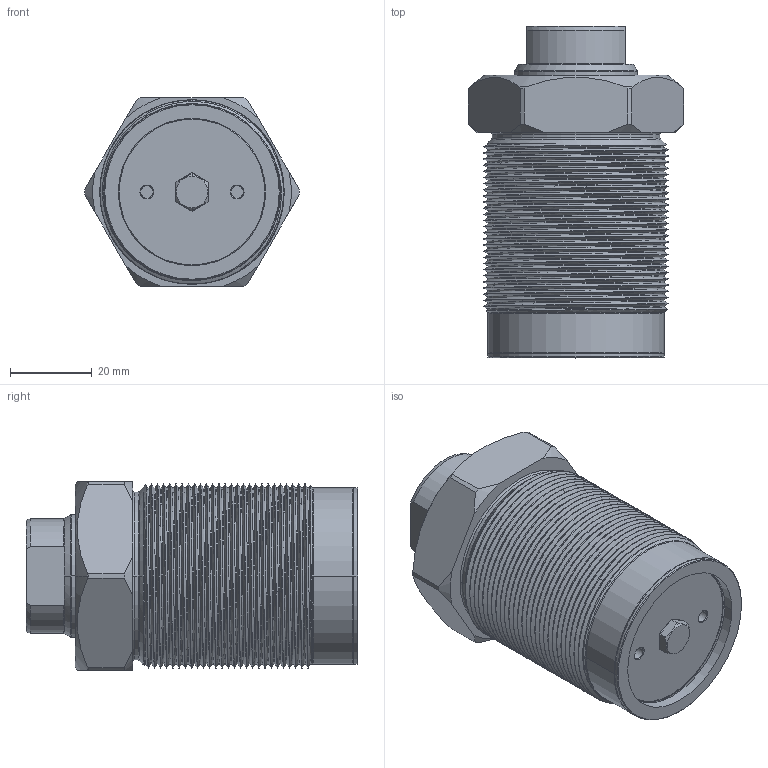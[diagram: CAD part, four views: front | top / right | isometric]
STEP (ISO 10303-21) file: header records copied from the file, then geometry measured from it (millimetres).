
FILE_DESCRIPTION((''),'2;1');
FILE_NAME('SIMP_PUSH_CYLINDER_45_ASM','2023-04-17T10:37:58',('Design 2'),(''),'CREO PARAMETRIC BY PTC INC, 2020053','CREO PARAMETRIC BY PTC INC, 2020053','');
FILE_SCHEMA(('CONFIG_CONTROL_DESIGN'));
Length unit declared in the file: millimetre
Products named in the file (6): THREADED_BODY__; ROD__; WASHER__; PISTON___ASM; COPPER_WASHER_45_; SIMP_PUSH_CYLINDER_45_ASM
Assembly tree (5 placements, depth 3):
  SIMP_PUSH_CYLINDER_45_ASM
    THREADED_BODY__
    PISTON___ASM
      ROD__
      WASHER__
    COPPER_WASHER_45_
Bounding box: 52.5 x 81 x 46 mm (x, y, z)
Volume: 107674.5 mm3; surface area: 35603.6 mm2
Topology: 4 solids, 4 shells, 239 faces, 597 edges, 374 vertices
Faces by surface type: cylinder 108, cone 47, bspline 35, plane 33, torus 14, sphere 2
Entity records: 19380 total; most frequent: CARTESIAN_POINT 13941, ORIENTED_EDGE 1194, DIRECTION 976, EDGE_CURVE 597, AXIS2_PLACEMENT_3D 388, VERTEX_POINT 374, EDGE_LOOP 255, FACE_OUTER_BOUND 239
